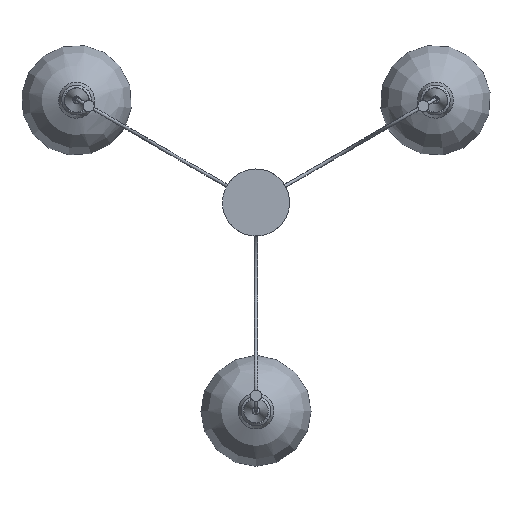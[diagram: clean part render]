
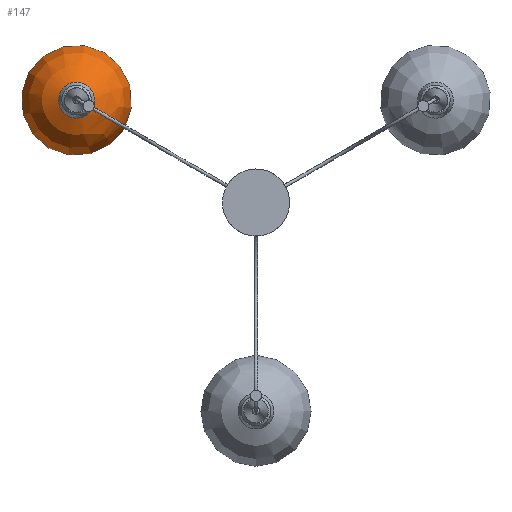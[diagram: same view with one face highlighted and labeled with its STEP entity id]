
A CAD part, top view. The second image highlights one B-rep face of the part: STEP entity #147.
In plain terms, the highlighted free-form (B-spline) face has degree [2, 2] with [9, 5] control points.
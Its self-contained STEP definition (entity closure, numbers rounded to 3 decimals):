
#147=ADVANCED_FACE('',(#224),#979,.T.);
#224=FACE_OUTER_BOUND('',#301,.T.);
#301=EDGE_LOOP('',(#467,#468,#469));
#467=ORIENTED_EDGE('',*,*,#656,.F.);
#468=ORIENTED_EDGE('',*,*,#656,.T.);
#469=ORIENTED_EDGE('',*,*,#660,.F.);
#656=EDGE_CURVE('',#878,#882,#778,.T.);
#660=EDGE_CURVE('',#882,#882,#780,.T.);
#778=(
BOUNDED_CURVE()
B_SPLINE_CURVE(2,(#4009,#4010,#4011,#4012,#4013),.UNSPECIFIED.,.F.,.F.)
B_SPLINE_CURVE_WITH_KNOTS((3,2,3),(-281.447,-140.723,
0.),.UNSPECIFIED.)
CURVE()
GEOMETRIC_REPRESENTATION_ITEM()
RATIONAL_B_SPLINE_CURVE((1.,0.763,1.,0.763,1.))
REPRESENTATION_ITEM('')
);
#780=(
BOUNDED_CURVE()
B_SPLINE_CURVE(2,(#4023,#4024,#4025,#4026,#4027,#4028,#4029,#4030,#4031),
 .UNSPECIFIED.,.T.,.F.)
B_SPLINE_CURVE_WITH_KNOTS((3,2,2,2,3),(0.,157.072,314.144,
471.217,628.289),.UNSPECIFIED.)
CURVE()
GEOMETRIC_REPRESENTATION_ITEM()
RATIONAL_B_SPLINE_CURVE((1.,0.707,1.,0.707,1.,0.707,
1.,0.707,1.))
REPRESENTATION_ITEM('')
);
#878=VERTEX_POINT('',#4004);
#882=VERTEX_POINT('',#4008);
#979=(
BOUNDED_SURFACE()
B_SPLINE_SURFACE(2,2,((#3896,#3897,#3898,#3899,#3900),(#3901,#3902,#3903,
#3904,#3905),(#3906,#3907,#3908,#3909,#3910),(#3911,#3912,#3913,#3914,#3915),
(#3916,#3917,#3918,#3919,#3920),(#3921,#3922,#3923,#3924,#3925),(#3926,
#3927,#3928,#3929,#3930),(#3931,#3932,#3933,#3934,#3935),(#3936,#3937,#3938,
#3939,#3940)),.UNSPECIFIED.,.T.,.F.,.F.)
B_SPLINE_SURFACE_WITH_KNOTS((3,2,2,2,3),(3,2,3),(0.,157.072,314.144,
471.217,628.289),(-281.447,-140.723,
0.),.UNSPECIFIED.)
GEOMETRIC_REPRESENTATION_ITEM()
RATIONAL_B_SPLINE_SURFACE(((1.,0.763,1.,0.763,1.),
(0.707,0.539,0.707,0.539,
0.707),(1.,0.763,1.,0.763,1.),(0.707,
0.539,0.707,0.539,0.707),
(1.,0.763,1.,0.763,1.),(0.707,0.539,
0.707,0.539,0.707),(1.,0.763,
1.,0.763,1.),(0.707,0.539,0.707,
0.539,0.707),(1.,0.763,1.,0.763,
1.)))
REPRESENTATION_ITEM('')
SURFACE()
);
#3896=CARTESIAN_POINT('',(1461.532,-456.897,-316.014));
#3897=CARTESIAN_POINT('',(1535.013,-499.322,-316.014));
#3898=CARTESIAN_POINT('',(1546.978,-506.23,-232.298));
#3899=CARTESIAN_POINT('',(1558.944,-513.138,-148.581));
#3900=CARTESIAN_POINT('',(1489.359,-472.963,-121.317));
#3901=CARTESIAN_POINT('',(1461.532,-456.897,-316.014));
#3902=CARTESIAN_POINT('',(1577.438,-425.84,-316.014));
#3903=CARTESIAN_POINT('',(1596.311,-420.783,-232.298));
#3904=CARTESIAN_POINT('',(1615.184,-415.726,-148.581));
#3905=CARTESIAN_POINT('',(1505.425,-445.136,-121.317));
#3906=CARTESIAN_POINT('',(1461.532,-456.897,-316.014));
#3907=CARTESIAN_POINT('',(1503.956,-383.416,-316.014));
#3908=CARTESIAN_POINT('',(1510.864,-371.451,-232.298));
#3909=CARTESIAN_POINT('',(1517.772,-359.485,-148.581));
#3910=CARTESIAN_POINT('',(1477.598,-429.07,-121.317));
#3911=CARTESIAN_POINT('',(1461.532,-456.897,-316.014));
#3912=CARTESIAN_POINT('',(1430.475,-340.991,-316.014));
#3913=CARTESIAN_POINT('',(1425.418,-322.118,-232.298));
#3914=CARTESIAN_POINT('',(1420.361,-303.244,-148.581));
#3915=CARTESIAN_POINT('',(1449.771,-413.004,-121.317));
#3916=CARTESIAN_POINT('',(1461.532,-456.897,-316.014));
#3917=CARTESIAN_POINT('',(1388.05,-414.473,-316.014));
#3918=CARTESIAN_POINT('',(1376.085,-407.565,-232.298));
#3919=CARTESIAN_POINT('',(1364.12,-400.656,-148.581));
#3920=CARTESIAN_POINT('',(1433.704,-440.831,-121.317));
#3921=CARTESIAN_POINT('',(1461.532,-456.897,-316.014));
#3922=CARTESIAN_POINT('',(1345.626,-487.954,-316.014));
#3923=CARTESIAN_POINT('',(1326.752,-493.011,-232.298));
#3924=CARTESIAN_POINT('',(1307.879,-498.068,-148.581));
#3925=CARTESIAN_POINT('',(1417.638,-468.658,-121.317));
#3926=CARTESIAN_POINT('',(1461.532,-456.897,-316.014));
#3927=CARTESIAN_POINT('',(1419.107,-530.379,-316.014));
#3928=CARTESIAN_POINT('',(1412.199,-542.344,-232.298));
#3929=CARTESIAN_POINT('',(1405.291,-554.309,-148.581));
#3930=CARTESIAN_POINT('',(1445.466,-484.724,-121.317));
#3931=CARTESIAN_POINT('',(1461.532,-456.897,-316.014));
#3932=CARTESIAN_POINT('',(1492.589,-572.803,-316.014));
#3933=CARTESIAN_POINT('',(1497.646,-591.677,-232.298));
#3934=CARTESIAN_POINT('',(1502.703,-610.55,-148.581));
#3935=CARTESIAN_POINT('',(1473.293,-500.791,-121.317));
#3936=CARTESIAN_POINT('',(1461.532,-456.897,-316.014));
#3937=CARTESIAN_POINT('',(1535.013,-499.322,-316.014));
#3938=CARTESIAN_POINT('',(1546.978,-506.23,-232.298));
#3939=CARTESIAN_POINT('',(1558.944,-513.138,-148.581));
#3940=CARTESIAN_POINT('',(1489.359,-472.963,-121.317));
#4004=CARTESIAN_POINT('',(1461.532,-456.897,-316.014));
#4008=CARTESIAN_POINT('',(1489.359,-472.963,-121.317));
#4009=CARTESIAN_POINT('',(1461.532,-456.897,-316.014));
#4010=CARTESIAN_POINT('',(1535.013,-499.322,-316.014));
#4011=CARTESIAN_POINT('',(1546.978,-506.23,-232.298));
#4012=CARTESIAN_POINT('',(1558.944,-513.138,-148.581));
#4013=CARTESIAN_POINT('',(1489.359,-472.963,-121.317));
#4023=CARTESIAN_POINT('',(1489.359,-472.963,-121.317));
#4024=CARTESIAN_POINT('',(1505.425,-445.136,-121.317));
#4025=CARTESIAN_POINT('',(1477.598,-429.07,-121.317));
#4026=CARTESIAN_POINT('',(1449.771,-413.004,-121.317));
#4027=CARTESIAN_POINT('',(1433.704,-440.831,-121.317));
#4028=CARTESIAN_POINT('',(1417.638,-468.658,-121.317));
#4029=CARTESIAN_POINT('',(1445.466,-484.724,-121.317));
#4030=CARTESIAN_POINT('',(1473.293,-500.791,-121.317));
#4031=CARTESIAN_POINT('',(1489.359,-472.963,-121.317));
